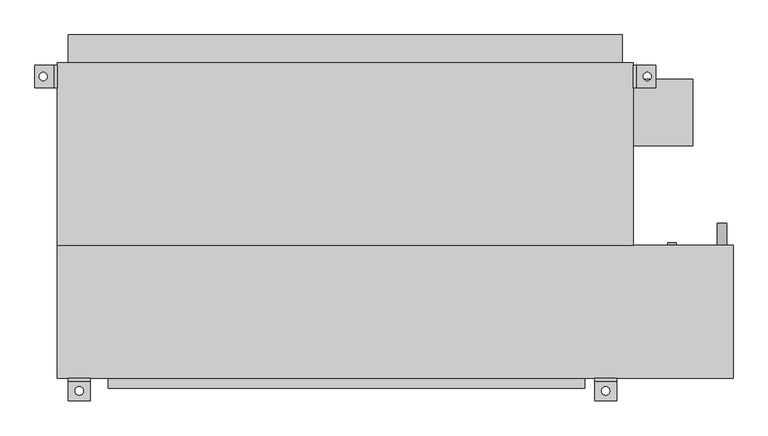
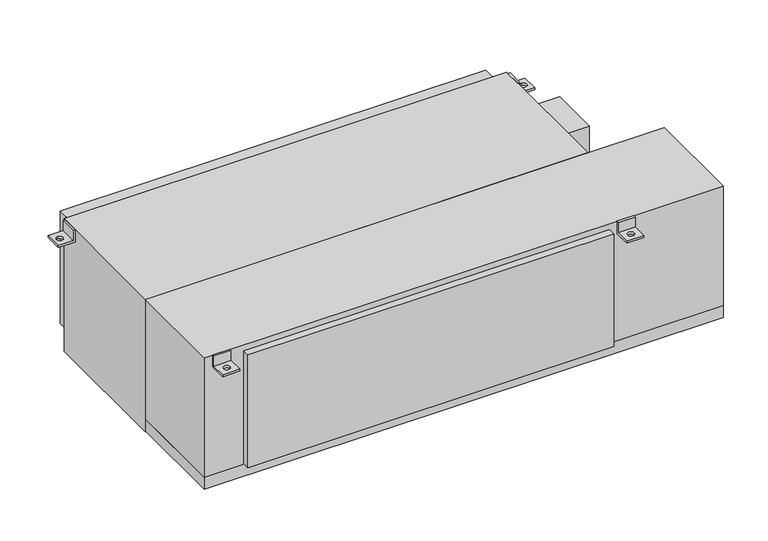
"""IFC4 building model written with IfcOpenShell, lengths in millimetres: proxy geometry, Concealed_High_Capacity_Horizontal_Fan_Coil_Unit_With_Plenum_-_42DCA_-_CARRIER_-_2-Pipe_Cool-EHeat_ValveEnclosure_RH_2022 : Size 18 - 277v/60Hz/1Ph - 6 Row 12.0kW."""

from ifc_helpers import new_model, si_unit, point, frame, frame_2d, origin, place, context, project, spatial, polyline, circle_curve, trimmed, segment, composite_curve, outline, extrude, source, transform, mapped, element, save
from ifc_brep_helpers import plane_surface, revolved_surface, advanced_brep


def mechanical_equipment_6b4c8f92(model_context):
    return source(origin(), model_context, "Body", "SolidModel", [
        advanced_brep(
        [(774.7, -390.525, 0.0), (774.7, -396.875, 0.0), (774.7, -396.875, -31.75), (774.7, -441.325, -31.75), (774.7, -441.325, -38.1), (774.7, -390.525, -38.1), (723.9, -390.525, 0.0), (723.9, -390.525, -38.1), (723.9, -441.325, -38.1), (723.9, -441.325, -31.75), (723.9, -396.875, -31.75), (723.9, -396.875, 0.0), (739.775, -419.1, -31.75), (758.825, -419.1, -31.75), (758.825, -419.1, -38.1), (739.775, -419.1, -38.1)],
        [
            (0, 1),
            (1, 2),
            (2, 3),
            (3, 4),
            (4, 5),
            (5, 0),
            (6, 7),
            (7, 8),
            (8, 9),
            (9, 10),
            (10, 11),
            (11, 6),
            (0, 6),
            (11, 1),
            (10, 2),
            (9, 3),
            (12, 13, circle_curve(frame((749.3, -419.1, -31.75), z_axis=(0.0, 0.0, -1.0), x_axis=(1.0, 0.0, 0.0)), 9.525)),
            (13, 12, circle_curve(frame((749.3, -419.1, -31.75), z_axis=(0.0, 0.0, -1.0), x_axis=(1.0, 0.0, 0.0)), 9.525)),
            (8, 4),
            (7, 5),
            (14, 15, circle_curve(frame((749.3, -419.1, -38.1), z_axis=(0.0, 0.0, 1.0), x_axis=(1.0, 0.0, 0.0)), 9.525)),
            (15, 14, circle_curve(frame((749.3, -419.1, -38.1), z_axis=(0.0, 0.0, 1.0), x_axis=(1.0, 0.0, 0.0)), 9.525)),
            (12, 15),
            (14, 13),
        ],
        [
            plane_surface(frame((774.7, -396.875, 0.0), z_axis=(1.0, 0.0, 0.0), x_axis=(0.0, -1.0, 0.0))),
            plane_surface(frame((723.9, -396.875, 0.0), z_axis=(-1.0, 0.0, 0.0), x_axis=(0.0, 1.0, 0.0))),
            plane_surface(frame((774.7, -390.525, 0.0), z_axis=(0.0, 0.0, 1.0), x_axis=(-1.0, 0.0, 0.0))),
            plane_surface(frame((774.7, -396.875, 0.0), z_axis=(0.0, -1.0, 0.0), x_axis=(-1.0, 0.0, 0.0))),
            plane_surface(frame((774.7, -396.875, -31.75), z_axis=(0.0, 0.0, 1.0), x_axis=(-1.0, 0.0, 0.0))),
            plane_surface(frame((774.7, -441.325, -31.75), z_axis=(0.0, -1.0, 0.0), x_axis=(-1.0, 0.0, 0.0))),
            plane_surface(frame((774.7, -441.325, -38.1), z_axis=(0.0, 0.0, -1.0), x_axis=(-1.0, 0.0, 0.0))),
            plane_surface(frame((774.7, -390.525, -38.1), z_axis=(0.0, 1.0, 0.0), x_axis=(-1.0, 0.0, 0.0))),
            revolved_surface(polyline([(758.8249999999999, -419.1, -38.1), (758.8249999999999, -419.1, -31.75)]), (749.3, -419.1, -31.75), (0.0, 0.0, -1.0)),
        ],
        [
            (0, [[1, 2, 3, 4, 5, 6]]),
            (1, [[7, 8, 9, 10, 11, 12]]),
            (2, [[-1, 13, -12, 14]]),
            (3, [[-2, -14, -11, 15]]),
            (4, [[-3, -15, -10, 16], [17, 18]]),
            (5, [[-4, -16, -9, 19]]),
            (6, [[-5, -19, -8, 20], [21, 22]]),
            (7, [[-6, -20, -7, -13]]),
            (8, [[23, -21, 24, -17]]),
            (8, [[-23, -18, -24, -22]]),
        ],
    ),
        advanced_brep(
        [(-431.8, -390.525, -38.1), (-431.8, -390.525, 0.0), (-431.8, -396.875, 0.0), (-431.8, -396.875, -31.75), (-431.8, -441.325, -31.75), (-431.8, -441.325, -38.1), (-482.6, -390.525, -38.1), (-482.6, -441.325, -38.1), (-482.6, -441.325, -31.75), (-482.6, -396.875, -31.75), (-482.6, -396.875, 0.0), (-482.6, -390.525, 0.0), (-466.725, -419.1, -31.75), (-447.675, -419.1, -31.75), (-447.675, -419.1, -38.1), (-466.725, -419.1, -38.1)],
        [
            (0, 1),
            (1, 2),
            (2, 3),
            (3, 4),
            (4, 5),
            (5, 0),
            (6, 7),
            (7, 8),
            (8, 9),
            (9, 10),
            (10, 11),
            (11, 6),
            (0, 6),
            (11, 1),
            (10, 2),
            (9, 3),
            (8, 4),
            (12, 13, circle_curve(frame((-457.2, -419.1, -31.75), z_axis=(0.0, 0.0, -1.0), x_axis=(1.0, 0.0, 0.0)), 9.525)),
            (13, 12, circle_curve(frame((-457.2, -419.1, -31.75), z_axis=(0.0, 0.0, -1.0), x_axis=(1.0, 0.0, 0.0)), 9.525)),
            (7, 5),
            (14, 15, circle_curve(frame((-457.2, -419.1, -38.1), z_axis=(0.0, 0.0, 1.0), x_axis=(1.0, 0.0, 0.0)), 9.525)),
            (15, 14, circle_curve(frame((-457.2, -419.1, -38.1), z_axis=(0.0, 0.0, 1.0), x_axis=(1.0, 0.0, 0.0)), 9.525)),
            (12, 15),
            (14, 13),
        ],
        [
            plane_surface(frame((-431.8, -390.525, -38.1), z_axis=(1.0, 0.0, 0.0), x_axis=(0.0, 0.0, 1.0))),
            plane_surface(frame((-482.6, -390.525, -38.1), z_axis=(-1.0, 0.0, 0.0), x_axis=(0.0, 0.0, -1.0))),
            plane_surface(frame((-431.8, -390.525, -38.1), z_axis=(0.0, 1.0, 0.0), x_axis=(-1.0, 0.0, 0.0))),
            plane_surface(frame((-431.8, -390.525, 0.0), z_axis=(0.0, 0.0, 1.0), x_axis=(-1.0, 0.0, 0.0))),
            plane_surface(frame((-431.8, -396.875, 0.0), z_axis=(0.0, -1.0, 0.0), x_axis=(-1.0, 0.0, 0.0))),
            plane_surface(frame((-431.8, -396.875, -31.75), z_axis=(0.0, 0.0, 1.0), x_axis=(-1.0, 0.0, 0.0))),
            plane_surface(frame((-431.8, -441.325, -31.75), z_axis=(0.0, -1.0, 0.0), x_axis=(-1.0, 0.0, 0.0))),
            plane_surface(frame((-431.8, -441.325, -38.1), z_axis=(0.0, 0.0, -1.0), x_axis=(-1.0, 0.0, 0.0))),
            revolved_surface(polyline([(-447.675, -419.1, -38.1), (-447.675, -419.1, -31.75)]), (-457.2, -419.1, -31.75), (0.0, 0.0, -1.0)),
        ],
        [
            (0, [[1, 2, 3, 4, 5, 6]]),
            (1, [[7, 8, 9, 10, 11, 12]]),
            (2, [[-1, 13, -12, 14]]),
            (3, [[-2, -14, -11, 15]]),
            (4, [[-3, -15, -10, 16]]),
            (5, [[-4, -16, -9, 17], [18, 19]]),
            (6, [[-5, -17, -8, 20]]),
            (7, [[-6, -20, -7, -13], [21, 22]]),
            (8, [[23, -21, 24, -18]]),
            (8, [[-23, -19, -24, -22]]),
        ],
    ),
        extrude(outline(composite_curve([segment(trimmed(circle_curve(frame_2d((-400.05, 1016.0)), 11.1125), [point((-400.05, 1004.8875))], [point((-400.05, 1027.1125))], False, "CARTESIAN"), True, "CONTINUOUS"), segment(trimmed(circle_curve(frame_2d((-400.05, 1016.0)), 11.1125), [point((-400.05, 1027.1125))], [point((-400.05, 1004.8875))], False, "CARTESIAN"), True, "CONTINUOUS")], self_intersect=False)), frame((0.0, -85.725, 0.0), z_axis=(0.0, 1.0, 0.0), x_axis=(0.0, 0.0, 1.0)), (0.0, 0.0, 1.0), 50.8),
        extrude(outline(composite_curve([segment(trimmed(circle_curve(frame_2d((-44.45, 901.7)), 9.525), [point((-44.45, 892.175))], [point((-44.45, 911.225))], False, "CARTESIAN"), True, "CONTINUOUS"), segment(trimmed(circle_curve(frame_2d((-44.45, 901.7)), 9.525), [point((-44.45, 911.225))], [point((-44.45, 892.175))], False, "CARTESIAN"), True, "CONTINUOUS")], self_intersect=False)), frame((0.0, -85.725, 0.0), z_axis=(0.0, 1.0, 0.0), x_axis=(0.0, 0.0, 1.0)), (0.0, 0.0, 1.0), 6.35),
        extrude(outline(composite_curve([segment(trimmed(circle_curve(frame_2d((-276.225, 901.7)), 9.525), [point((-276.225, 892.175))], [point((-276.225, 911.225))], False, "CARTESIAN"), True, "CONTINUOUS"), segment(trimmed(circle_curve(frame_2d((-276.225, 901.7)), 9.525), [point((-276.225, 911.225))], [point((-276.225, 892.175))], False, "CARTESIAN"), True, "CONTINUOUS")], self_intersect=False)), frame((0.0, -85.725, 0.0), z_axis=(0.0, 1.0, 0.0), x_axis=(0.0, 0.0, 1.0)), (0.0, 0.0, 1.0), 6.35),
        advanced_brep(
        [(-508.0, 327.025, -38.1), (-558.8, 327.025, -38.1), (-558.8, 327.025, -31.75), (-514.35, 327.025, -31.75), (-514.35, 327.025, 0.0), (-508.0, 327.025, 0.0), (-508.0, 276.225, -38.1), (-508.0, 276.225, 0.0), (-514.35, 276.225, 0.0), (-514.35, 276.225, -31.75), (-558.8, 276.225, -31.75), (-558.8, 276.225, -38.1), (-539.75, 292.1, -38.1), (-539.75, 311.15, -38.1), (-539.75, 311.15, -31.75), (-539.75, 292.1, -31.75)],
        [
            (0, 1),
            (1, 2),
            (2, 3),
            (3, 4),
            (4, 5),
            (5, 0),
            (6, 7),
            (7, 8),
            (8, 9),
            (9, 10),
            (10, 11),
            (11, 6),
            (0, 6),
            (11, 1),
            (12, 13, circle_curve(frame((-539.75, 301.625, -38.1), z_axis=(0.0, 0.0, 1.0), x_axis=(0.0, -1.0, 0.0)), 9.525)),
            (13, 12, circle_curve(frame((-539.75, 301.625, -38.1), z_axis=(0.0, 0.0, 1.0), x_axis=(0.0, -1.0, 0.0)), 9.525)),
            (10, 2),
            (9, 3),
            (14, 15, circle_curve(frame((-539.75, 301.625, -31.75), z_axis=(0.0, 0.0, -1.0), x_axis=(0.0, -1.0, 0.0)), 9.525)),
            (15, 14, circle_curve(frame((-539.75, 301.625, -31.75), z_axis=(0.0, 0.0, -1.0), x_axis=(0.0, -1.0, 0.0)), 9.525)),
            (8, 4),
            (7, 5),
            (14, 13),
            (12, 15),
        ],
        [
            plane_surface(frame((-508.0, 327.025, -38.1), z_axis=(0.0, 1.0, 0.0), x_axis=(-1.0, 0.0, 0.0))),
            plane_surface(frame((-508.0, 276.225, -38.1), z_axis=(0.0, -1.0, 0.0), x_axis=(1.0, 0.0, 0.0))),
            plane_surface(frame((-508.0, 327.025, -38.1), z_axis=(0.0, 0.0, -1.0), x_axis=(0.0, -1.0, 0.0))),
            plane_surface(frame((-558.8, 327.025, -38.1), z_axis=(-1.0, 0.0, 0.0), x_axis=(0.0, -1.0, 0.0))),
            plane_surface(frame((-558.8, 327.025, -31.75), z_axis=(0.0, 0.0, 1.0), x_axis=(0.0, -1.0, 0.0))),
            plane_surface(frame((-514.35, 327.025, -31.75), z_axis=(-1.0, 0.0, 0.0), x_axis=(0.0, -1.0, 0.0))),
            plane_surface(frame((-514.35, 327.025, 0.0), z_axis=(0.0, 0.0, 1.0), x_axis=(0.0, -1.0, 0.0))),
            plane_surface(frame((-508.0, 327.025, 0.0), z_axis=(1.0, 0.0, 0.0), x_axis=(0.0, -1.0, 0.0))),
            revolved_surface(polyline([(-539.75, 292.1, -38.1), (-539.75, 292.1, -31.75)]), (-539.75, 301.625, -31.75), (0.0, 0.0, -1.0)),
        ],
        [
            (0, [[1, 2, 3, 4, 5, 6]]),
            (1, [[7, 8, 9, 10, 11, 12]]),
            (2, [[-1, 13, -12, 14], [15, 16]]),
            (3, [[-2, -14, -11, 17]]),
            (4, [[-3, -17, -10, 18], [19, 20]]),
            (5, [[-4, -18, -9, 21]]),
            (6, [[-5, -21, -8, 22]]),
            (7, [[-6, -22, -7, -13]]),
            (8, [[23, -15, 24, -19]]),
            (8, [[-23, -20, -24, -16]]),
        ],
    ),
        advanced_brep(
        [(812.8, 327.025, -38.1), (812.8, 327.025, 0.0), (819.15, 327.025, 0.0), (819.15, 327.025, -31.75), (863.6, 327.025, -31.75), (863.6, 327.025, -38.1), (812.8, 276.225, -38.1), (863.6, 276.225, -38.1), (863.6, 276.225, -31.75), (819.15, 276.225, -31.75), (819.15, 276.225, 0.0), (812.8, 276.225, 0.0), (844.55, 311.15, -31.75), (844.55, 292.1, -31.75), (844.55, 292.1, -38.1), (844.55, 311.15, -38.1)],
        [
            (0, 1),
            (1, 2),
            (2, 3),
            (3, 4),
            (4, 5),
            (5, 0),
            (6, 7),
            (7, 8),
            (8, 9),
            (9, 10),
            (10, 11),
            (11, 6),
            (0, 6),
            (11, 1),
            (10, 2),
            (9, 3),
            (8, 4),
            (12, 13, circle_curve(frame((844.55, 301.625, -31.75), z_axis=(0.0, 0.0, -1.0), x_axis=(0.0, -1.0, 0.0)), 9.525)),
            (13, 12, circle_curve(frame((844.55, 301.625, -31.75), z_axis=(0.0, 0.0, -1.0), x_axis=(0.0, -1.0, 0.0)), 9.525)),
            (7, 5),
            (14, 15, circle_curve(frame((844.55, 301.625, -38.1), z_axis=(0.0, 0.0, 1.0), x_axis=(0.0, -1.0, 0.0)), 9.525)),
            (15, 14, circle_curve(frame((844.55, 301.625, -38.1), z_axis=(0.0, 0.0, 1.0), x_axis=(0.0, -1.0, 0.0)), 9.525)),
            (12, 15),
            (14, 13),
        ],
        [
            plane_surface(frame((-508.0, 327.025, -38.1), z_axis=(0.0, 1.0, 0.0), x_axis=(-1.0, 0.0, 0.0))),
            plane_surface(frame((-508.0, 276.225, -38.1), z_axis=(0.0, -1.0, 0.0), x_axis=(1.0, 0.0, 0.0))),
            plane_surface(frame((812.8, 327.025, -38.1), z_axis=(-1.0, 0.0, 0.0), x_axis=(0.0, -1.0, 0.0))),
            plane_surface(frame((812.8, 327.025, 0.0), z_axis=(0.0, 0.0, 1.0), x_axis=(0.0, -1.0, 0.0))),
            plane_surface(frame((819.15, 327.025, 0.0), z_axis=(1.0, 0.0, 0.0), x_axis=(0.0, -1.0, 0.0))),
            plane_surface(frame((819.15, 327.025, -31.75), z_axis=(0.0, 0.0, 1.0), x_axis=(0.0, -1.0, 0.0))),
            plane_surface(frame((863.6, 327.025, -31.75), z_axis=(1.0, 0.0, 0.0), x_axis=(0.0, -1.0, 0.0))),
            plane_surface(frame((863.6, 327.025, -38.1), z_axis=(0.0, 0.0, -1.0), x_axis=(0.0, -1.0, 0.0))),
            revolved_surface(polyline([(844.55, 292.1, -38.1), (844.55, 292.1, -31.75)]), (844.55, 301.625, -31.75), (0.0, 0.0, -1.0)),
        ],
        [
            (0, [[1, 2, 3, 4, 5, 6]]),
            (1, [[7, 8, 9, 10, 11, 12]]),
            (2, [[-1, 13, -12, 14]]),
            (3, [[-2, -14, -11, 15]]),
            (4, [[-3, -15, -10, 16]]),
            (5, [[-4, -16, -9, 17], [18, 19]]),
            (6, [[-5, -17, -8, 20]]),
            (7, [[-6, -20, -7, -13], [21, 22]]),
            (8, [[23, -21, 24, -18]]),
            (8, [[-23, -19, -24, -22]]),
        ],
    ),
        extrude(outline(polyline([(-482.6, 396.875), (787.4, 396.875), (787.4, 333.375), (-482.6, 333.375), (-482.6, 396.875)])), frame((0.0, 0.0, -377.825), z_axis=(0.0, 0.0, 1.0), x_axis=(1.0, 0.0, 0.0)), (0.0, 0.0, 1.0), 355.6),
        extrude(outline(polyline([(949.325, 295.275), (949.325, 142.875), (812.8, 142.875), (812.8, 295.275), (949.325, 295.275)])), frame((0.0, 0.0, -254.0), z_axis=(0.0, 0.0, 1.0), x_axis=(1.0, 0.0, 0.0)), (0.0, 0.0, 1.0), 152.4),
        extrude(outline(polyline([(701.675, -412.75), (-390.525, -412.75), (-390.525, -390.525), (701.675, -390.525), (701.675, -412.75)])), frame((0.0, 0.0, -374.65), z_axis=(0.0, 0.0, 1.0), x_axis=(1.0, 0.0, 0.0)), (0.0, 0.0, 1.0), 355.6),
        extrude(outline(polyline([(812.8, -85.725), (-508.0, -85.725), (-508.0, 333.375), (812.8, 333.375), (812.8, -85.725)])), frame((0.0, 0.0, -419.1), z_axis=(0.0, 0.0, 1.0), x_axis=(1.0, 0.0, 0.0)), (0.0, 0.0, 1.0), 419.1),
        extrude(outline(polyline([(1041.4, -85.725), (1041.4, -390.525), (-508.0, -390.525), (-508.0, -85.725), (1041.4, -85.725)])), frame((0.0, 0.0, -377.825), z_axis=(0.0, 0.0, 1.0), x_axis=(1.0, 0.0, 0.0)), (0.0, 0.0, 1.0), 377.825),
        extrude(outline(polyline([(1041.4, -85.725), (1041.4, -390.525), (-508.0, -390.525), (-508.0, -85.725), (1041.4, -85.725)])), frame((0.0, 0.0, -415.925), z_axis=(0.0, 0.0, 1.0), x_axis=(1.0, 0.0, 0.0)), (0.0, 0.0, 1.0), 38.1),
    ])


if __name__ == "__main__":
    model = new_model("IFC4")
    model_context = context("Model", 3, world=origin())
    ifc_project = project(units=[si_unit("LENGTHUNIT", "METRE", prefix="MILLI")], contexts=[model_context])
    site = spatial("IfcSite", under=ifc_project)
    building = spatial("IfcBuilding", under=site)
    placement = place(None, origin())
    mechanical_equipment_shape = mechanical_equipment_6b4c8f92(model_context)
    element("IfcBuildingElementProxy", 1, Name="Concealed_High_Capacity_Horizontal_Fan_Coil_Unit_With_Plenum_-_42DCA_-_CARRIER_-_2-Pipe_Cool-EHeat_ValveEnclosure_RH_2022 : Size 18 - 277v/60Hz/1Ph - 6 Row 12.0kW", ObjectType="Concealed_High_Capacity_Horizontal_Fan_Coil_Unit_With_Plenum_-_42DCA_-_CARRIER_-_2-Pipe_Cool-EHeat_ValveEnclosure_RH_2022 : Size 18 - 277v/60Hz/1Ph - 6 Row 12.0kW", at=placement, inside=building, context=model_context, shape_type="MappedRepresentation", body=[
        mapped(mechanical_equipment_shape, transform((0.0, 0.0, 0.0), x_axis=(1.0, 0.0, 0.0), y_axis=(0.0, 1.0, 0.0), z_axis=(0.0, 0.0, 1.0))),
    ])
    save(model, "model.ifc")
